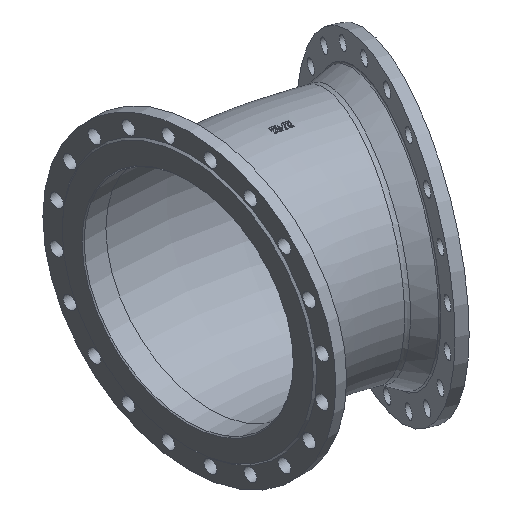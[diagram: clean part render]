
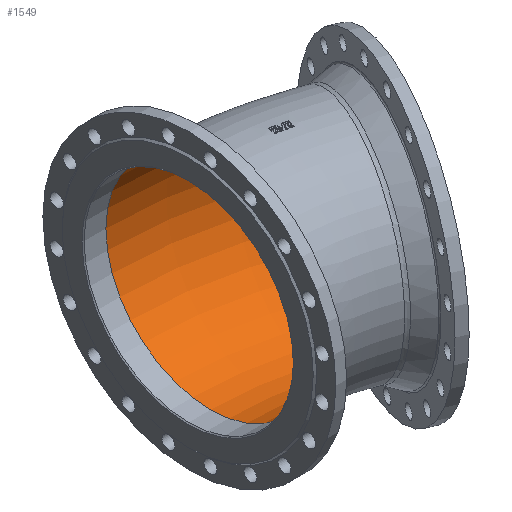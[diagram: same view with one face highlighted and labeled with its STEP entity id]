
A CAD part, isometric view. The second image highlights one B-rep face of the part: STEP entity #1549.
In plain terms, the highlighted toroidal (fillet/blend) face has major radius 947 mm and minor radius 300 mm.
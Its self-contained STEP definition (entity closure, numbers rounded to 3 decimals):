
#7 = VERTEX_POINT ( 'NONE', #3341 ) ;
#203 = EDGE_CURVE ( 'NONE', #965, #965, #1331, .T. ) ;
#207 = DIRECTION ( 'NONE',  ( 0., 1., 0. ) ) ;
#397 = AXIS2_PLACEMENT_3D ( 'NONE', #810, #3195, #1137 ) ;
#588 = FACE_OUTER_BOUND ( 'NONE', #1564, .T. ) ;
#632 = AXIS2_PLACEMENT_3D ( 'NONE', #2692, #5193, #207 ) ;
#810 = CARTESIAN_POINT ( 'NONE',  ( 174.031, -72.086, 0. ) ) ;
#866 = ORIENTED_EDGE ( 'NONE', *, *, #2248, .F. ) ;
#965 = VERTEX_POINT ( 'NONE', #2237 ) ;
#1137 = DIRECTION ( 'NONE',  ( 0.383, 0.924, 0. ) ) ;
#1331 = CIRCLE ( 'NONE', #397, 300. ) ;
#1549 = ADVANCED_FACE ( 'NONE', ( #4295, #588 ), #4893, .F. ) ;
#1564 = EDGE_LOOP ( 'NONE', ( #866 ) ) ;
#2152 = CARTESIAN_POINT ( 'NONE',  ( -188.37, -947., 0. ) ) ;
#2237 = CARTESIAN_POINT ( 'NONE',  ( 288.836, 205.078, 0. ) ) ;
#2248 = EDGE_CURVE ( 'NONE', #7, #7, #3910, .T. ) ;
#2619 = DIRECTION ( 'NONE',  ( 0., 0., -1. ) ) ;
#2692 = CARTESIAN_POINT ( 'NONE',  ( -188.37, 0., 0. ) ) ;
#3195 = DIRECTION ( 'NONE',  ( 0.924, -0.383, 0. ) ) ;
#3341 = CARTESIAN_POINT ( 'NONE',  ( -188.37, 300., 0. ) ) ;
#3803 = DIRECTION ( 'NONE',  ( -1., 0., 0. ) ) ;
#3897 = ORIENTED_EDGE ( 'NONE', *, *, #203, .T. ) ;
#3910 = CIRCLE ( 'NONE', #632, 300. ) ;
#4059 = EDGE_LOOP ( 'NONE', ( #3897 ) ) ;
#4283 = AXIS2_PLACEMENT_3D ( 'NONE', #2152, #2619, #3803 ) ;
#4295 = FACE_OUTER_BOUND ( 'NONE', #4059, .T. ) ;
#4893 = TOROIDAL_SURFACE ( 'NONE', #4283, 947., 300. ) ;
#5193 = DIRECTION ( 'NONE',  ( 1., 0., 0. ) ) ;
